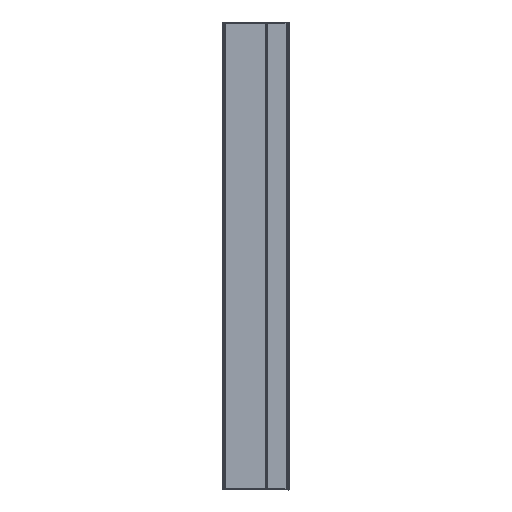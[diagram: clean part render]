
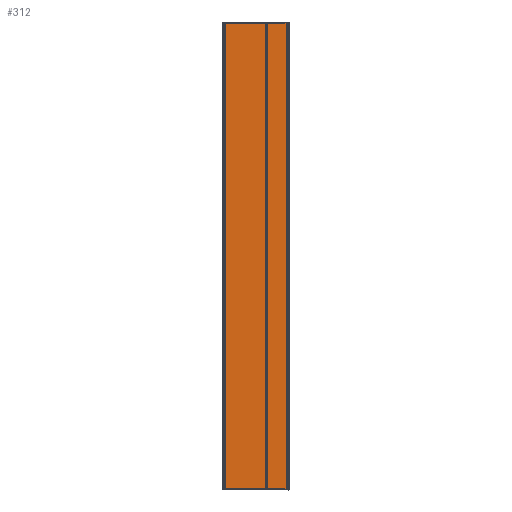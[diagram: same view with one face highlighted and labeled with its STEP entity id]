
A CAD part, left-side view. The second image highlights one B-rep face of the part: STEP entity #312.
In plain terms, the highlighted planar face has unit normal (-1, 0, 0).
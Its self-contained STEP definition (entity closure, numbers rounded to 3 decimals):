
#312=ADVANCED_FACE('',(#1187),#1189,.T.);
#1187=FACE_BOUND('',#1188,.T.);
#1188=EDGE_LOOP('',(#5032,#5033,#5034,#5035));
#1189=PLANE('',#1190);
#1190=AXIS2_PLACEMENT_3D('',#1191,#1192,#1193);
#1191=CARTESIAN_POINT('',(-17.5,4.,-278.));
#1192=DIRECTION('',(-1.,0.,0.));
#1193=DIRECTION('',(0.,-1.,0.));
#5032=ORIENTED_EDGE('',*,*,#8211,.T.);
#5033=ORIENTED_EDGE('',*,*,#8210,.T.);
#5034=ORIENTED_EDGE('',*,*,#8212,.T.);
#5035=ORIENTED_EDGE('',*,*,#8213,.F.);
#8210=EDGE_CURVE('',#9842,#9844,#9846,.T.);
#8211=EDGE_CURVE('',#9847,#9842,#9848,.F.);
#8212=EDGE_CURVE('',#9844,#9849,#9850,.F.);
#8213=EDGE_CURVE('',#9847,#9849,#9851,.T.);
#9842=VERTEX_POINT('',#12624);
#9844=VERTEX_POINT('',#12629);
#9846=LINE('',#12634,#12635);
#9847=VERTEX_POINT('',#12637);
#9848=LINE('',#12638,#12639);
#9849=VERTEX_POINT('',#12641);
#9850=LINE('',#12642,#12643);
#9851=LINE('',#12645,#12646);
#12624=CARTESIAN_POINT('',(-17.5,-73.75,-278.));
#12629=CARTESIAN_POINT('',(-17.5,-73.75,278.));
#12634=CARTESIAN_POINT('',(-17.5,-73.75,-278.));
#12635=VECTOR('',#12636,1.);
#12636=DIRECTION('',(0.,0.,1.));
#12637=CARTESIAN_POINT('',(-17.5,4.,-278.));
#12638=CARTESIAN_POINT('',(-17.5,-73.75,-278.));
#12639=VECTOR('',#12640,1.);
#12640=DIRECTION('',(0.,1.,0.));
#12641=CARTESIAN_POINT('',(-17.5,4.,278.));
#12642=CARTESIAN_POINT('',(-17.5,4.,278.));
#12643=VECTOR('',#12644,1.);
#12644=DIRECTION('',(0.,-1.,0.));
#12645=CARTESIAN_POINT('',(-17.5,4.,-278.));
#12646=VECTOR('',#12647,1.);
#12647=DIRECTION('',(0.,0.,1.));
